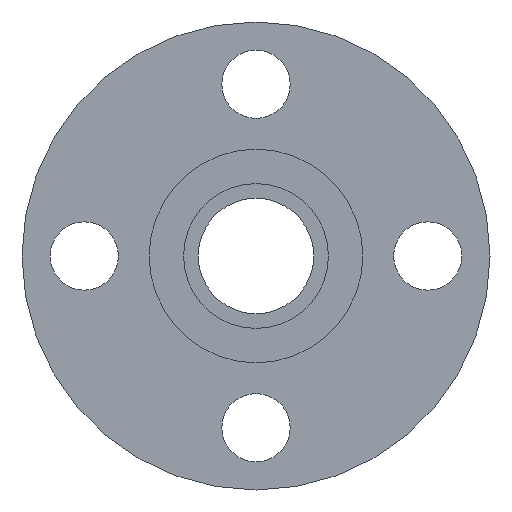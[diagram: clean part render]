
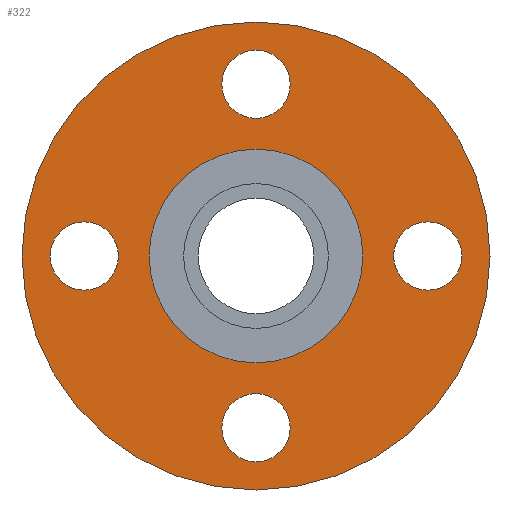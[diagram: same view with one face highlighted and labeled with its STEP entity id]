
A CAD part, left-side view. The second image highlights one B-rep face of the part: STEP entity #322.
In plain terms, the highlighted planar face has unit normal (-1, 0, 0).
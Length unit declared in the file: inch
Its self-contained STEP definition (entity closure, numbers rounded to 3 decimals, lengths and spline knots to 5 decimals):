
#14=FACE_BOUND('',#56,.T.);
#15=FACE_BOUND('',#57,.T.);
#16=FACE_BOUND('',#58,.T.);
#17=FACE_BOUND('',#59,.T.);
#18=FACE_BOUND('',#60,.T.);
#28=PLANE('',#370);
#39=FACE_OUTER_BOUND('',#55,.T.);
#55=EDGE_LOOP('',(#228,#229));
#56=EDGE_LOOP('',(#230));
#57=EDGE_LOOP('',(#231));
#58=EDGE_LOOP('',(#232));
#59=EDGE_LOOP('',(#233));
#60=EDGE_LOOP('',(#234,#235));
#101=CIRCLE('',#355,0.31);
#103=CIRCLE('',#358,0.31);
#105=CIRCLE('',#361,0.31);
#107=CIRCLE('',#364,0.31);
#108=CIRCLE('',#366,2.125);
#109=CIRCLE('',#367,2.125);
#112=CIRCLE('',#371,0.97);
#113=CIRCLE('',#372,0.97);
#133=VERTEX_POINT('',#513);
#135=VERTEX_POINT('',#519);
#137=VERTEX_POINT('',#525);
#139=VERTEX_POINT('',#531);
#140=VERTEX_POINT('',#535);
#141=VERTEX_POINT('',#536);
#144=VERTEX_POINT('',#545);
#145=VERTEX_POINT('',#546);
#166=EDGE_CURVE('',#133,#133,#101,.T.);
#169=EDGE_CURVE('',#135,#135,#103,.T.);
#172=EDGE_CURVE('',#137,#137,#105,.T.);
#175=EDGE_CURVE('',#139,#139,#107,.T.);
#176=EDGE_CURVE('',#140,#141,#108,.T.);
#177=EDGE_CURVE('',#141,#140,#109,.T.);
#181=EDGE_CURVE('',#144,#145,#112,.T.);
#182=EDGE_CURVE('',#145,#144,#113,.T.);
#228=ORIENTED_EDGE('',*,*,#176,.T.);
#229=ORIENTED_EDGE('',*,*,#177,.T.);
#230=ORIENTED_EDGE('',*,*,#166,.T.);
#231=ORIENTED_EDGE('',*,*,#169,.T.);
#232=ORIENTED_EDGE('',*,*,#172,.T.);
#233=ORIENTED_EDGE('',*,*,#175,.T.);
#234=ORIENTED_EDGE('',*,*,#181,.F.);
#235=ORIENTED_EDGE('',*,*,#182,.F.);
#322=ADVANCED_FACE('',(#39,#14,#15,#16,#17,#18),#28,.T.);
#355=AXIS2_PLACEMENT_3D('',#515,#408,#409);
#358=AXIS2_PLACEMENT_3D('',#521,#415,#416);
#361=AXIS2_PLACEMENT_3D('',#527,#422,#423);
#364=AXIS2_PLACEMENT_3D('',#533,#429,#430);
#366=AXIS2_PLACEMENT_3D('',#537,#433,#434);
#367=AXIS2_PLACEMENT_3D('',#538,#435,#436);
#370=AXIS2_PLACEMENT_3D('',#544,#442,#443);
#371=AXIS2_PLACEMENT_3D('',#547,#444,#445);
#372=AXIS2_PLACEMENT_3D('',#548,#446,#447);
#408=DIRECTION('center_axis',(1.,0.,0.));
#409=DIRECTION('ref_axis',(0.,-1.,0.));
#415=DIRECTION('center_axis',(1.,0.,0.));
#416=DIRECTION('ref_axis',(0.,0.,-1.));
#422=DIRECTION('center_axis',(1.,0.,0.));
#423=DIRECTION('ref_axis',(0.,1.,0.));
#429=DIRECTION('center_axis',(1.,0.,0.));
#430=DIRECTION('ref_axis',(0.,0.,1.));
#433=DIRECTION('center_axis',(-1.,0.,0.));
#434=DIRECTION('ref_axis',(0.,0.,1.));
#435=DIRECTION('center_axis',(-1.,0.,0.));
#436=DIRECTION('ref_axis',(0.,0.,1.));
#442=DIRECTION('center_axis',(-1.,0.,0.));
#443=DIRECTION('ref_axis',(0.,0.,1.));
#444=DIRECTION('center_axis',(-1.,0.,0.));
#445=DIRECTION('ref_axis',(0.,0.,1.));
#446=DIRECTION('center_axis',(-1.,0.,0.));
#447=DIRECTION('ref_axis',(0.,0.,1.));
#513=CARTESIAN_POINT('',(-0.56,1.87,0.));
#515=CARTESIAN_POINT('Origin',(-0.56,1.56,0.));
#519=CARTESIAN_POINT('',(-0.56,0.,1.87));
#521=CARTESIAN_POINT('Origin',(-0.56,0.,1.56));
#525=CARTESIAN_POINT('',(-0.56,-1.87,0.));
#527=CARTESIAN_POINT('Origin',(-0.56,-1.56,0.));
#531=CARTESIAN_POINT('',(-0.56,0.,-1.87));
#533=CARTESIAN_POINT('Origin',(-0.56,0.,-1.56));
#535=CARTESIAN_POINT('',(-0.56,0.,2.125));
#536=CARTESIAN_POINT('',(-0.56,0.,-2.125));
#537=CARTESIAN_POINT('Origin',(-0.56,0.,0.));
#538=CARTESIAN_POINT('Origin',(-0.56,0.,0.));
#544=CARTESIAN_POINT('Origin',(-0.56,0.,1.5475));
#545=CARTESIAN_POINT('',(-0.56,0.,0.97));
#546=CARTESIAN_POINT('',(-0.56,0.,-0.97));
#547=CARTESIAN_POINT('Origin',(-0.56,0.,0.));
#548=CARTESIAN_POINT('Origin',(-0.56,0.,0.));
